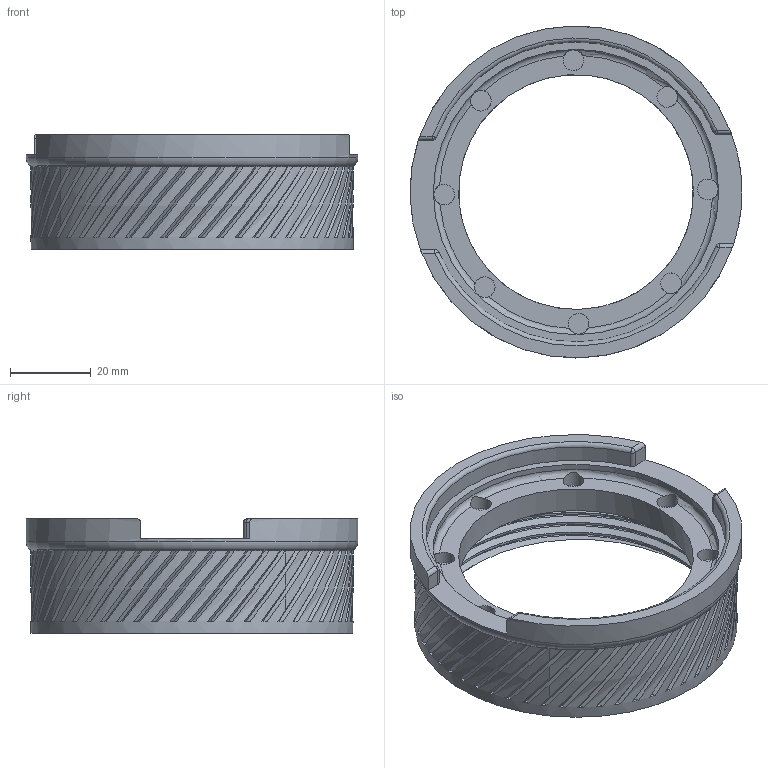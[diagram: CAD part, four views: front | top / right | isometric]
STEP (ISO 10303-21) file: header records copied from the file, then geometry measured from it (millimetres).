
FILE_DESCRIPTION(/* description */ ('STEP AP242','CAx-IF Rec.Pracs.---Representation and Presentation of Product Manufacturing Information (PMI)---4.0---2014-10-13','CAx-IF Rec.Pracs.---3D Tessellated Geometry---0.4---2014-09-14','2;1'),/* implementation_level */ '2;1');
FILE_NAME(/* name */ '6469255bcac4670533c20e0c',/* time_stamp */ '2023-05-20T19:54:04Z',/* author */ (''),/* organization */ (''),/* preprocessor_version */ 'ST-DEVELOPER v19.4',/* originating_system */ ' ',/* authorisation */ ' ');
FILE_SCHEMA (('AP242_MANAGED_MODEL_BASED_3D_ENGINEERING_MIM_LF { 1 0 10303 442 1 1 4 }'));
Length unit declared in the file: metre
Products named in the file (1): Base 24mm Magnet Lug
Bounding box: 82 x 82 x 28.4 mm (x, y, z)
Volume: 36492.5 mm3; surface area: 19820.1 mm2
Topology: 1 solids, 1 shells, 318 faces, 820 edges, 504 vertices
Faces by surface type: plane 147, bspline 132, cylinder 26, cone 5, torus 4, sphere 4
Full cylindrical faces by diameter (mm): 5.1 x8, 58 x1, 70.5 x1, 79.6 x1, 82 x1
Entity records: 15953 total; most frequent: CARTESIAN_POINT 9953, ORIENTED_EDGE 1552, DIRECTION 880, EDGE_CURVE 776, VERTEX_POINT 483, AXIS2_PLACEMENT_3D 407, EDGE_LOOP 337, FACE_BOUND 337
